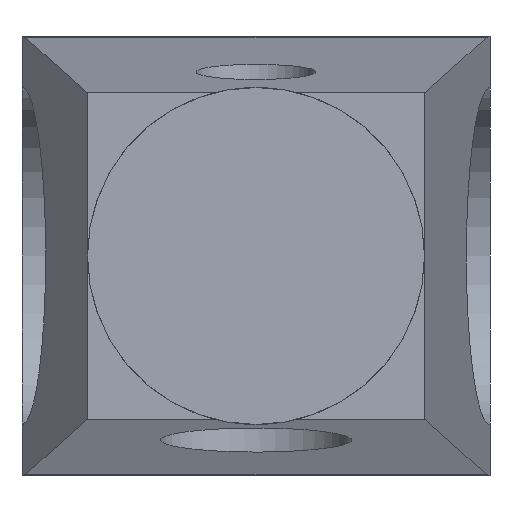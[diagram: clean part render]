
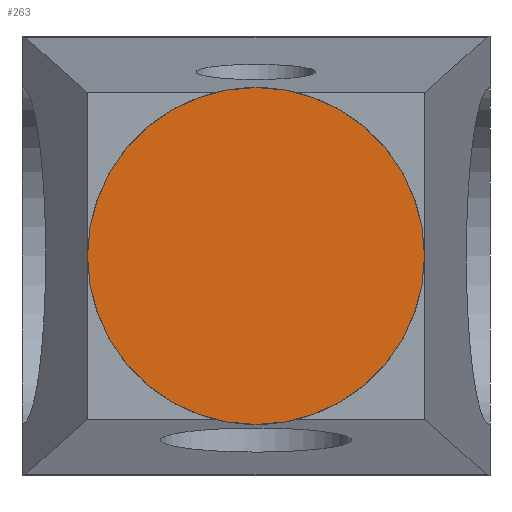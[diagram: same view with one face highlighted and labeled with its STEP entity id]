
A CAD part, front view. The second image highlights one B-rep face of the part: STEP entity #263.
In plain terms, the highlighted planar face has unit normal (0, -1, 0).
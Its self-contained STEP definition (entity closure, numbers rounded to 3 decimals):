
#16 = EDGE_CURVE ( 'NONE', #451, #613, #733, .T. ) ;
#45 = ORIENTED_EDGE ( 'NONE', *, *, #486, .T. ) ;
#174 = EDGE_LOOP ( 'NONE', ( #597, #45 ) ) ;
#178 = AXIS2_PLACEMENT_3D ( 'NONE', #640, #520, #697 ) ;
#212 = AXIS2_PLACEMENT_3D ( 'NONE', #719, #316, #307 ) ;
#223 = PLANE ( 'NONE',  #178 ) ;
#261 = AXIS2_PLACEMENT_3D ( 'NONE', #380, #375, #441 ) ;
#263 = ADVANCED_FACE ( 'NONE', ( #611 ), #223, .T. ) ;
#273 = CARTESIAN_POINT ( 'NONE',  ( 9., -184.904, 0. ) ) ;
#307 = DIRECTION ( 'NONE',  ( 1., 0., 0. ) ) ;
#316 = DIRECTION ( 'NONE',  ( 0., -1., 0. ) ) ;
#356 = CARTESIAN_POINT ( 'NONE',  ( -9., -184.904, 0. ) ) ;
#375 = DIRECTION ( 'NONE',  ( 0., -1., 0. ) ) ;
#380 = CARTESIAN_POINT ( 'NONE',  ( 0., -184.904, 0. ) ) ;
#441 = DIRECTION ( 'NONE',  ( 1., 0., 0. ) ) ;
#451 = VERTEX_POINT ( 'NONE', #356 ) ;
#486 = EDGE_CURVE ( 'NONE', #613, #451, #653, .T. ) ;
#520 = DIRECTION ( 'NONE',  ( 0., -1., 0. ) ) ;
#597 = ORIENTED_EDGE ( 'NONE', *, *, #16, .T. ) ;
#611 = FACE_OUTER_BOUND ( 'NONE', #174, .T. ) ;
#613 = VERTEX_POINT ( 'NONE', #273 ) ;
#640 = CARTESIAN_POINT ( 'NONE',  ( 0., -184.904, 0. ) ) ;
#653 = CIRCLE ( 'NONE', #212, 9. ) ;
#697 = DIRECTION ( 'NONE',  ( 1., 0., 0. ) ) ;
#719 = CARTESIAN_POINT ( 'NONE',  ( 0., -184.904, 0. ) ) ;
#733 = CIRCLE ( 'NONE', #261, 9. ) ;
